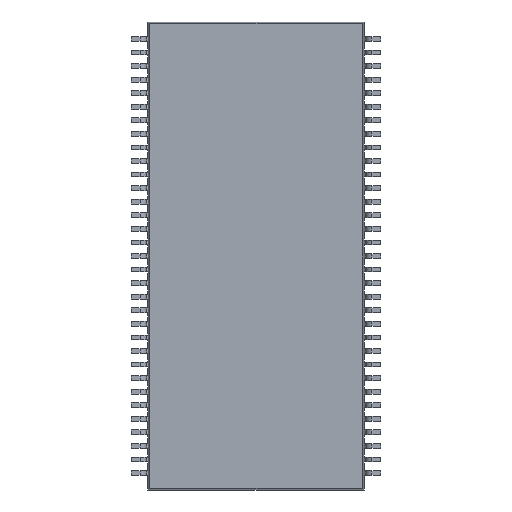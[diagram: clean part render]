
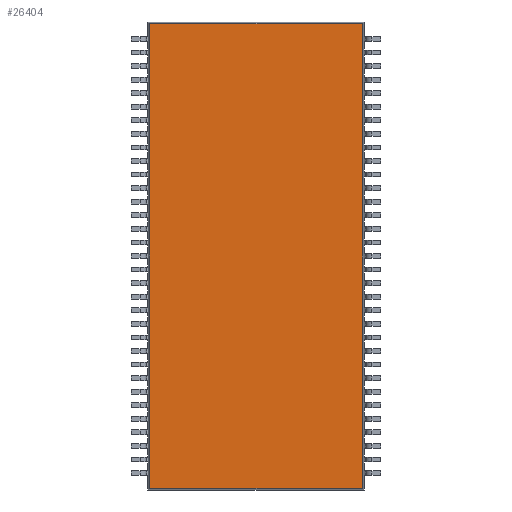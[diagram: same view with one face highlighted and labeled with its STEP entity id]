
A CAD part, front view. The second image highlights one B-rep face of the part: STEP entity #26404.
In plain terms, the highlighted planar face has unit normal (0, -1, 0).
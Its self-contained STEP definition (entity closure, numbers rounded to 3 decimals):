
#1917 = AXIS2_PLACEMENT_3D ( 'NONE', #3950, #3962, #3963 ) ;
#3549 = FACE_OUTER_BOUND ( 'NONE', #24123, .T. ) ;
#3948 = PLANE ( 'NONE',  #1917 ) ;
#3950 = CARTESIAN_POINT ( 'NONE',  ( 0., 0.1, 0. ) ) ;
#3962 = DIRECTION ( 'NONE',  ( 0., 1., 0. ) ) ;
#3963 = DIRECTION ( 'NONE',  ( 0., 0., 1. ) ) ;
#13775 = CARTESIAN_POINT ( 'NONE',  ( -5.096, 0.1, 11.21 ) ) ;
#13789 = DIRECTION ( 'NONE',  ( 0., 0., -1. ) ) ;
#13797 = CARTESIAN_POINT ( 'NONE',  ( 5.096, 0.1, 11.21 ) ) ;
#13805 = DIRECTION ( 'NONE',  ( 0., 0., 1. ) ) ;
#14017 = CARTESIAN_POINT ( 'NONE',  ( 5.18, 0.1, -11.126 ) ) ;
#14018 = DIRECTION ( 'NONE',  ( 1., 0., 0. ) ) ;
#14019 = CARTESIAN_POINT ( 'NONE',  ( 5.18, 0.1, 11.126 ) ) ;
#14020 = DIRECTION ( 'NONE',  ( -1., 0., 0. ) ) ;
#14597 = LINE ( 'NONE', #13775, #14606 ) ;
#14606 = VECTOR ( 'NONE', #13789, 1000. ) ;
#14617 = LINE ( 'NONE', #13797, #14622 ) ;
#14622 = VECTOR ( 'NONE', #13805, 1000. ) ;
#14830 = LINE ( 'NONE', #14017, #14833 ) ;
#14832 = LINE ( 'NONE', #14019, #14835 ) ;
#14833 = VECTOR ( 'NONE', #14018, 1000. ) ;
#14835 = VECTOR ( 'NONE', #14020, 1000. ) ;
#23208 = CARTESIAN_POINT ( 'NONE',  ( -5.096, 0.1, -11.126 ) ) ;
#23210 = CARTESIAN_POINT ( 'NONE',  ( -5.096, 0.1, 11.126 ) ) ;
#23215 = CARTESIAN_POINT ( 'NONE',  ( 5.096, 0.1, 11.126 ) ) ;
#23219 = CARTESIAN_POINT ( 'NONE',  ( 5.096, 0.1, -11.126 ) ) ;
#24123 = EDGE_LOOP ( 'NONE', ( #34087, #34088, #34089, #34090 ) ) ;
#26404 = ADVANCED_FACE ( 'NONE', ( #3549 ), #3948, .F. ) ;
#27327 = EDGE_CURVE ( 'NONE', #35040, #35038, #14597, .T. ) ;
#27335 = EDGE_CURVE ( 'NONE', #35049, #35045, #14617, .T. ) ;
#27441 = EDGE_CURVE ( 'NONE', #35038, #35049, #14830, .T. ) ;
#27442 = EDGE_CURVE ( 'NONE', #35045, #35040, #14832, .T. ) ;
#34087 = ORIENTED_EDGE ( 'NONE', *, *, #27327, .T. ) ;
#34088 = ORIENTED_EDGE ( 'NONE', *, *, #27441, .T. ) ;
#34089 = ORIENTED_EDGE ( 'NONE', *, *, #27335, .T. ) ;
#34090 = ORIENTED_EDGE ( 'NONE', *, *, #27442, .T. ) ;
#35038 = VERTEX_POINT ( 'NONE', #23208 ) ;
#35040 = VERTEX_POINT ( 'NONE', #23210 ) ;
#35045 = VERTEX_POINT ( 'NONE', #23215 ) ;
#35049 = VERTEX_POINT ( 'NONE', #23219 ) ;
